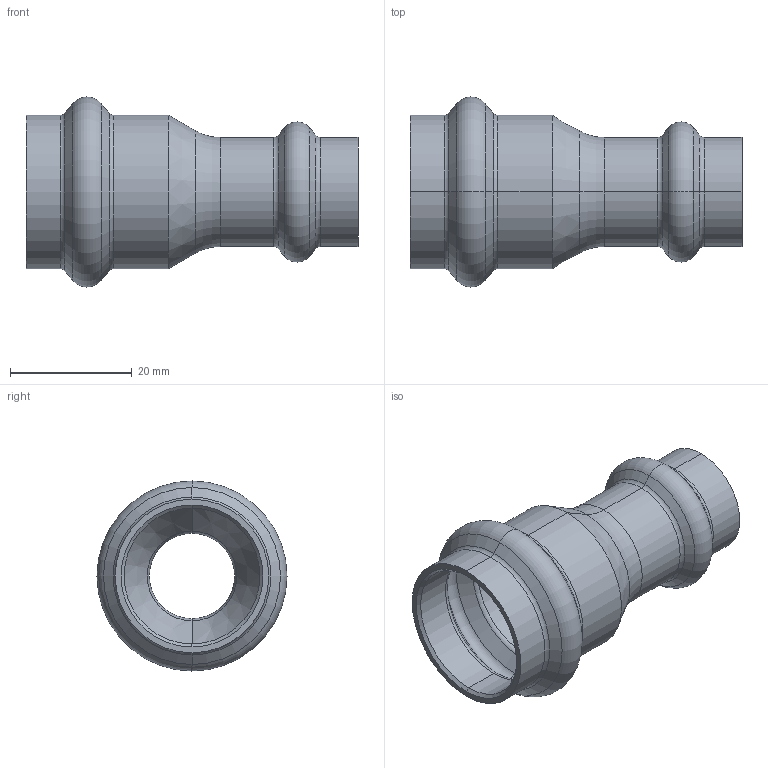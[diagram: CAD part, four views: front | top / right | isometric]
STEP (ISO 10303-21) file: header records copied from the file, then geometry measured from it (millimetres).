
FILE_DESCRIPTION (( 'STEP AP203' ), '1' );
FILE_NAME ('SP5240 22-15.STEP', '2017-04-24T08:41:10', ( '' ), ( '' ), 'SwSTEP 2.0', 'SolidWorks 2016', '' );
FILE_SCHEMA (( 'CONFIG_CONTROL_DESIGN' ));
Length unit declared in the file: millimetre
Products named in the file (1): SP5240 22-15
Bounding box: 54.5 x 31.2 x 31.2 mm (x, y, z)
Volume: 5685.1 mm3; surface area: 8064.3 mm2
Topology: 1 solids, 1 shells, 72 faces, 144 edges, 74 vertices
Faces by surface type: torus 30, cone 24, cylinder 16, plane 2
Entity records: 1925 total; most frequent: DIRECTION 394, CARTESIAN_POINT 291, ORIENTED_EDGE 288, AXIS2_PLACEMENT_3D 177, EDGE_CURVE 144, CIRCLE 104, VERTEX_POINT 74, EDGE_LOOP 74
